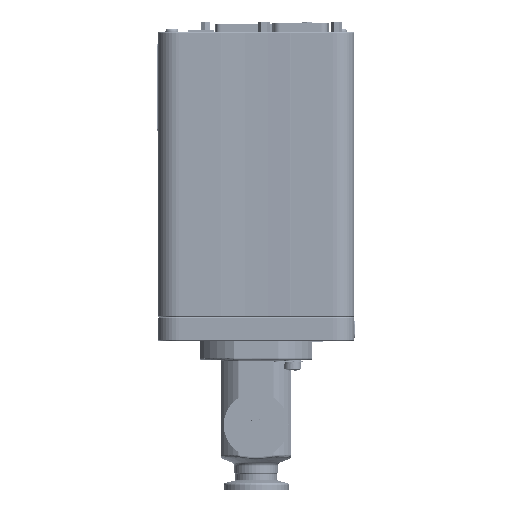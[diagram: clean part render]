
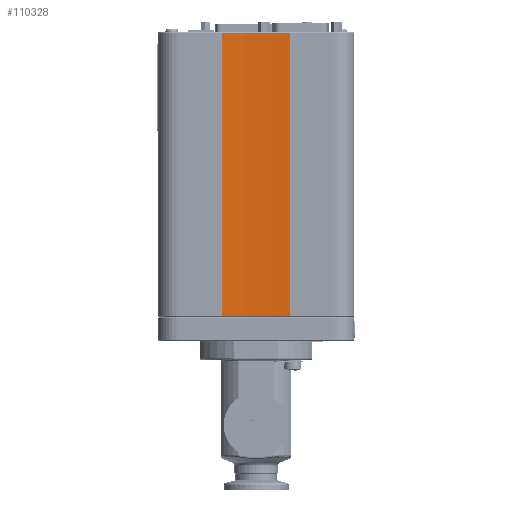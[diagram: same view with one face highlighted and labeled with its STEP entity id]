
A CAD part, top view. The second image highlights one B-rep face of the part: STEP entity #110328.
In plain terms, the highlighted cylindrical face has radius 256 mm (diameter 512 mm), a partial arc.
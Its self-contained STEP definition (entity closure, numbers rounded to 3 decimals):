
#58337=FACE_OUTER_BOUND('',#129708,.T.);
#68083=LINE('',#314557,#88221);
#68131=LINE('',#314752,#88269);
#88221=VECTOR('',#260624,1.);
#88269=VECTOR('',#260744,1.);
#108040=CYLINDRICAL_SURFACE('',#245089,256.);
#110328=ADVANCED_FACE('',(#58337),#108040,.F.);
#129708=EDGE_LOOP('',(#143676,#143677,#143678,#143679));
#143676=ORIENTED_EDGE('',*,*,#214491,.T.);
#143677=ORIENTED_EDGE('',*,*,#214500,.T.);
#143678=ORIENTED_EDGE('',*,*,#214416,.T.);
#143679=ORIENTED_EDGE('',*,*,#214501,.T.);
#195941=VERTEX_POINT('',#314558);
#195942=VERTEX_POINT('',#314559);
#195991=VERTEX_POINT('',#314751);
#195992=VERTEX_POINT('',#314753);
#214416=EDGE_CURVE('',#195941,#195942,#68083,.T.);
#214491=EDGE_CURVE('',#195992,#195991,#68131,.T.);
#214500=EDGE_CURVE('',#195991,#195941,#240170,.T.);
#214501=EDGE_CURVE('',#195942,#195992,#240171,.T.);
#240170=CIRCLE('',#245087,256.);
#240171=CIRCLE('',#245088,256.);
#245087=AXIS2_PLACEMENT_3D('',#314771,#260760,#260761);
#245088=AXIS2_PLACEMENT_3D('',#314772,#260762,#260763);
#245089=AXIS2_PLACEMENT_3D('',#314773,#260764,#260765);
#260624=DIRECTION('',(0.,0.,1.));
#260744=DIRECTION('',(0.,0.,-1.));
#260760=DIRECTION('',(0.,0.,-1.));
#260761=DIRECTION('',(1.,0.,0.));
#260762=DIRECTION('',(0.,0.,1.));
#260763=DIRECTION('',(1.,0.,0.));
#260764=DIRECTION('',(0.,0.,-1.));
#260765=DIRECTION('',(-1.,0.,0.));
#314557=CARTESIAN_POINT('',(-15.764,45.486,1000.));
#314558=CARTESIAN_POINT('',(-15.764,45.486,2.5));
#314559=CARTESIAN_POINT('',(-15.764,45.486,133.5));
#314751=CARTESIAN_POINT('',(15.764,45.486,2.5));
#314752=CARTESIAN_POINT('',(15.764,45.486,1000.));
#314753=CARTESIAN_POINT('',(15.764,45.486,133.5));
#314771=CARTESIAN_POINT('',(0.,301.,2.5));
#314772=CARTESIAN_POINT('',(0.,301.,133.5));
#314773=CARTESIAN_POINT('',(0.,301.,1000.));
